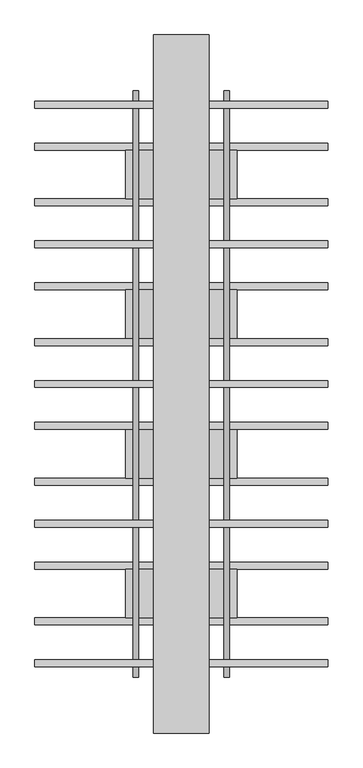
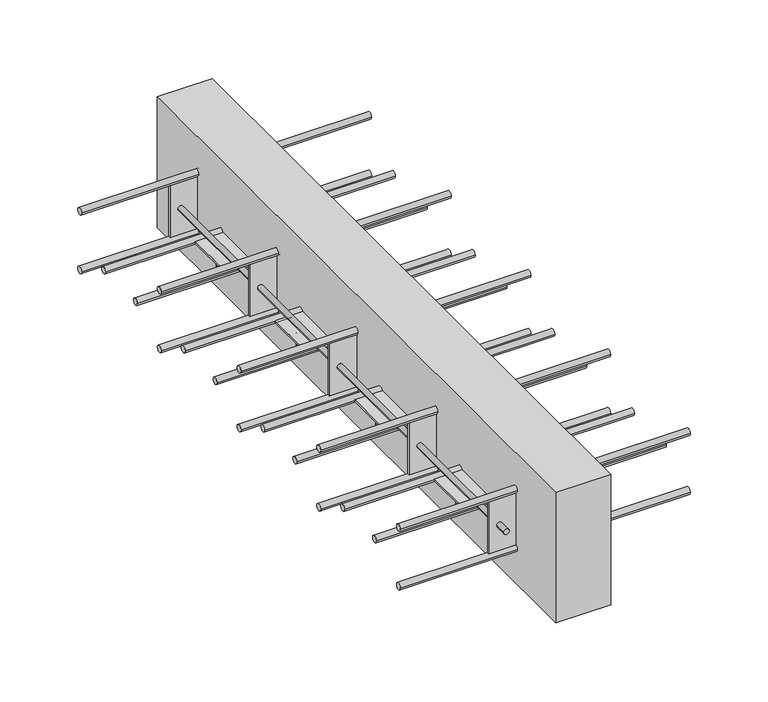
"""IFC4 building model written with IfcOpenShell, lengths in millimetres: proxy geometry, ACINOXplus_Typenreihe_Q : QD+ S4."""

from ifc_helpers import new_model, si_unit, point, frame, frame_2d, origin, place, context, project, spatial, polyline, circle_curve, trimmed, segment, composite_curve, outline, extrude, source, transform, mapped, element, save
from ifc_brep_helpers import plane_surface, cylinder_surface, advanced_brep


def generic_models_d223e0c7(model_context):
    return source(origin(), model_context, "Body", "SolidModel", [
        extrude(outline(composite_curve([segment(trimmed(circle_curve(frame_2d((-340.0, -109.0)), 5.0), [point((-345.0, -109.0))], [point((-335.0, -109.0))], False, "CARTESIAN"), True, "CONTINUOUS"), segment(trimmed(circle_curve(frame_2d((-340.0, -109.0)), 5.0), [point((-335.0, -109.0))], [point((-345.0, -109.0))], False, "CARTESIAN"), True, "CONTINUOUS")], self_intersect=False)), frame((-210.0, 0.0, 0.0), z_axis=(1.0, 0.0, 0.0), x_axis=(0.0, 1.0, 0.0)), (0.0, 0.0, 1.0), 420.0),
        extrude(outline(composite_curve([segment(trimmed(circle_curve(frame_2d((-260.0, -109.0)), 5.0), [point((-265.0, -109.0))], [point((-255.0, -109.0))], False, "CARTESIAN"), True, "CONTINUOUS"), segment(trimmed(circle_curve(frame_2d((-260.0, -109.0)), 5.0), [point((-255.0, -109.0))], [point((-265.0, -109.0))], False, "CARTESIAN"), True, "CONTINUOUS")], self_intersect=False)), frame((-210.0, 0.0, 0.0), z_axis=(1.0, 0.0, 0.0), x_axis=(0.0, 1.0, 0.0)), (0.0, 0.0, 1.0), 420.0),
        advanced_brep(
        [(-69.0, -300.0, -137.0), (-61.0, -300.0, -137.0), (61.0, -300.0, -137.0), (69.0, -300.0, -137.0), (-61.0, -300.0, -110.5), (-69.0, -300.0, -110.5), (69.0, -300.0, -110.5), (61.0, -300.0, -110.5), (80.0, -265.0, -107.5), (-80.0, -265.0, -107.5), (-80.0, -335.0, -107.5), (80.0, -335.0, -107.5), (80.0, -265.0, -110.5), (80.0, -335.0, -110.5), (-80.0, -335.0, -110.5), (-80.0, -265.0, -110.5)],
        [
            (0, 1, circle_curve(frame((-65.0, -300.0, -137.0), z_axis=(0.0, 0.0, -1.0), x_axis=(1.0, 0.0, 0.0)), 4.0)),
            (1, 0, circle_curve(frame((-65.0, -300.0, -137.0), z_axis=(0.0, 0.0, -1.0), x_axis=(1.0, 0.0, 0.0)), 4.0)),
            (2, 3, circle_curve(frame((65.0, -300.0, -137.0), z_axis=(0.0, 0.0, -1.0), x_axis=(1.0, 0.0, 0.0)), 4.0)),
            (3, 2, circle_curve(frame((65.0, -300.0, -137.0), z_axis=(0.0, 0.0, -1.0), x_axis=(1.0, 0.0, 0.0)), 4.0)),
            (1, 4),
            (4, 5, circle_curve(frame((-65.0, -300.0, -110.5), z_axis=(0.0, 0.0, -1.0), x_axis=(1.0, 0.0, 0.0)), 4.0)),
            (5, 0),
            (5, 4, circle_curve(frame((-65.0, -300.0, -110.5), z_axis=(0.0, 0.0, -1.0), x_axis=(1.0, 0.0, 0.0)), 4.0)),
            (3, 6),
            (6, 7, circle_curve(frame((65.0, -300.0, -110.5), z_axis=(0.0, 0.0, -1.0), x_axis=(1.0, 0.0, 0.0)), 4.0)),
            (7, 2),
            (7, 6, circle_curve(frame((65.0, -300.0, -110.5), z_axis=(0.0, 0.0, -1.0), x_axis=(1.0, 0.0, 0.0)), 4.0)),
            (8, 9),
            (9, 10),
            (10, 11),
            (11, 8),
            (12, 13),
            (13, 14),
            (14, 15),
            (15, 12),
            (8, 12),
            (15, 9),
            (14, 10),
            (13, 11),
        ],
        [
            plane_surface(frame((-61.0, -300.0, -137.0), z_axis=(0.0, 0.0, -1.0), x_axis=(0.0, -1.0, 0.0))),
            cylinder_surface(frame((-65.0, -300.0, -137.0), z_axis=(0.0, 0.0, 1.0), x_axis=(1.0, 0.0, 0.0)), 4.0),
            cylinder_surface(frame((65.0, -300.0, -109.0), z_axis=(0.0, 0.0, 1.0), x_axis=(1.0, 0.0, 0.0)), 4.0),
            plane_surface(frame((-80.0, -265.0, -107.5), z_axis=(0.0, 0.0, 1.0), x_axis=(-1.0, 0.0, 0.0))),
            plane_surface(frame((-80.0, -265.0, -110.5), z_axis=(0.0, 0.0, -1.0), x_axis=(1.0, 0.0, 0.0))),
            plane_surface(frame((80.0, -265.0, -107.5), z_axis=(0.0, 1.0, 0.0), x_axis=(0.0, 0.0, -1.0))),
            plane_surface(frame((-80.0, -265.0, -107.5), z_axis=(-1.0, 0.0, 0.0), x_axis=(0.0, 0.0, -1.0))),
            plane_surface(frame((-80.0, -335.0, -107.5), z_axis=(0.0, -1.0, 0.0), x_axis=(0.0, 0.0, -1.0))),
            plane_surface(frame((80.0, -335.0, -107.5), z_axis=(1.0, 0.0, 0.0), x_axis=(0.0, 0.0, -1.0))),
        ],
        [
            (0, [[1, 2]]),
            (0, [[3, 4]]),
            (1, [[-2, 5, 6, 7]]),
            (1, [[-1, -7, 8, -5]]),
            (2, [[-4, 9, 10, 11]]),
            (2, [[-3, -11, 12, -9]]),
            (3, [[13, 14, 15, 16]]),
            (4, [[17, 18, 19, 20], [-6, -8], [-10, -12]]),
            (5, [[-13, 21, -20, 22]]),
            (6, [[-14, -22, -19, 23]]),
            (7, [[-15, -23, -18, 24]]),
            (8, [[-16, -24, -17, -21]]),
        ],
    ),
        extrude(outline(composite_curve([segment(trimmed(circle_curve(frame_2d((260.0, -109.0)), 5.0), [point((255.0, -109.0))], [point((265.0, -109.0))], False, "CARTESIAN"), True, "CONTINUOUS"), segment(trimmed(circle_curve(frame_2d((260.0, -109.0)), 5.0), [point((265.0, -109.0))], [point((255.0, -109.0))], False, "CARTESIAN"), True, "CONTINUOUS")], self_intersect=False)), frame((-210.0, 0.0, 0.0), z_axis=(1.0, 0.0, 0.0), x_axis=(0.0, 1.0, 0.0)), (0.0, 0.0, 1.0), 420.0),
        extrude(outline(composite_curve([segment(trimmed(circle_curve(frame_2d((340.0, -109.0)), 5.0), [point((335.0, -109.0))], [point((345.0, -109.0))], False, "CARTESIAN"), True, "CONTINUOUS"), segment(trimmed(circle_curve(frame_2d((340.0, -109.0)), 5.0), [point((345.0, -109.0))], [point((335.0, -109.0))], False, "CARTESIAN"), True, "CONTINUOUS")], self_intersect=False)), frame((-210.0, 0.0, 0.0), z_axis=(1.0, 0.0, 0.0), x_axis=(0.0, 1.0, 0.0)), (0.0, 0.0, 1.0), 420.0),
        advanced_brep(
        [(-69.0, 300.0, -137.0), (-61.0, 300.0, -137.0), (61.0, 300.0, -137.0), (69.0, 300.0, -137.0), (-61.0, 300.0, -110.5), (-69.0, 300.0, -110.5), (69.0, 300.0, -110.5), (61.0, 300.0, -110.5), (80.0, 335.0, -107.5), (-80.0, 335.0, -107.5), (-80.0, 265.0, -107.5), (80.0, 265.0, -107.5), (80.0, 335.0, -110.5), (80.0, 265.0, -110.5), (-80.0, 265.0, -110.5), (-80.0, 335.0, -110.5)],
        [
            (0, 1, circle_curve(frame((-65.0, 300.0, -137.0), z_axis=(0.0, 0.0, -1.0), x_axis=(1.0, 0.0, 0.0)), 4.0)),
            (1, 0, circle_curve(frame((-65.0, 300.0, -137.0), z_axis=(0.0, 0.0, -1.0), x_axis=(1.0, 0.0, 0.0)), 4.0)),
            (2, 3, circle_curve(frame((65.0, 300.0, -137.0), z_axis=(0.0, 0.0, -1.0), x_axis=(1.0, 0.0, 0.0)), 4.0)),
            (3, 2, circle_curve(frame((65.0, 300.0, -137.0), z_axis=(0.0, 0.0, -1.0), x_axis=(1.0, 0.0, 0.0)), 4.0)),
            (1, 4),
            (4, 5, circle_curve(frame((-65.0, 300.0, -110.5), z_axis=(0.0, 0.0, -1.0), x_axis=(1.0, 0.0, 0.0)), 4.0)),
            (5, 0),
            (5, 4, circle_curve(frame((-65.0, 300.0, -110.5), z_axis=(0.0, 0.0, -1.0), x_axis=(1.0, 0.0, 0.0)), 4.0)),
            (3, 6),
            (6, 7, circle_curve(frame((65.0, 300.0, -110.5), z_axis=(0.0, 0.0, -1.0), x_axis=(1.0, 0.0, 0.0)), 4.0)),
            (7, 2),
            (7, 6, circle_curve(frame((65.0, 300.0, -110.5), z_axis=(0.0, 0.0, -1.0), x_axis=(1.0, 0.0, 0.0)), 4.0)),
            (8, 9),
            (9, 10),
            (10, 11),
            (11, 8),
            (12, 13),
            (13, 14),
            (14, 15),
            (15, 12),
            (8, 12),
            (15, 9),
            (14, 10),
            (13, 11),
        ],
        [
            plane_surface(frame((-61.0, 300.0, -137.0), z_axis=(0.0, 0.0, -1.0), x_axis=(0.0, -1.0, 0.0))),
            cylinder_surface(frame((-65.0, 300.0, -137.0), z_axis=(0.0, 0.0, 1.0), x_axis=(1.0, 0.0, 0.0)), 4.0),
            cylinder_surface(frame((65.0, 300.0, -109.0), z_axis=(0.0, 0.0, 1.0), x_axis=(1.0, 0.0, 0.0)), 4.0),
            plane_surface(frame((-80.0, 335.0, -107.5), z_axis=(0.0, 0.0, 1.0), x_axis=(-1.0, 0.0, 0.0))),
            plane_surface(frame((-80.0, 335.0, -110.5), z_axis=(0.0, 0.0, -1.0), x_axis=(1.0, 0.0, 0.0))),
            plane_surface(frame((80.0, 335.0, -107.5), z_axis=(0.0, 1.0, 0.0), x_axis=(0.0, 0.0, -1.0))),
            plane_surface(frame((-80.0, 335.0, -107.5), z_axis=(-1.0, 0.0, 0.0), x_axis=(0.0, 0.0, -1.0))),
            plane_surface(frame((-80.0, 265.0, -107.5), z_axis=(0.0, -1.0, 0.0), x_axis=(0.0, 0.0, -1.0))),
            plane_surface(frame((80.0, 265.0, -107.5), z_axis=(1.0, 0.0, 0.0), x_axis=(0.0, 0.0, -1.0))),
        ],
        [
            (0, [[1, 2]]),
            (0, [[3, 4]]),
            (1, [[-2, 5, 6, 7]]),
            (1, [[-1, -7, 8, -5]]),
            (2, [[-4, 9, 10, 11]]),
            (2, [[-3, -11, 12, -9]]),
            (3, [[13, 14, 15, 16]]),
            (4, [[17, 18, 19, 20], [-6, -8], [-10, -12]]),
            (5, [[-13, 21, -20, 22]]),
            (6, [[-14, -22, -19, 23]]),
            (7, [[-15, -23, -18, 24]]),
            (8, [[-16, -24, -17, -21]]),
        ],
    ),
        extrude(outline(composite_curve([segment(trimmed(circle_curve(frame_2d((-140.0, -109.0)), 5.0), [point((-145.0, -109.0))], [point((-135.0, -109.0))], False, "CARTESIAN"), True, "CONTINUOUS"), segment(trimmed(circle_curve(frame_2d((-140.0, -109.0)), 5.0), [point((-135.0, -109.0))], [point((-145.0, -109.0))], False, "CARTESIAN"), True, "CONTINUOUS")], self_intersect=False)), frame((-210.0, 0.0, 0.0), z_axis=(1.0, 0.0, 0.0), x_axis=(0.0, 1.0, 0.0)), (0.0, 0.0, 1.0), 420.0),
        extrude(outline(composite_curve([segment(trimmed(circle_curve(frame_2d((-60.0, -109.0)), 5.0), [point((-65.0, -109.0))], [point((-55.0, -109.0))], False, "CARTESIAN"), True, "CONTINUOUS"), segment(trimmed(circle_curve(frame_2d((-60.0, -109.0)), 5.0), [point((-55.0, -109.0))], [point((-65.0, -109.0))], False, "CARTESIAN"), True, "CONTINUOUS")], self_intersect=False)), frame((-210.0, 0.0, 0.0), z_axis=(1.0, 0.0, 0.0), x_axis=(0.0, 1.0, 0.0)), (0.0, 0.0, 1.0), 420.0),
        advanced_brep(
        [(-69.0, -100.0, -137.0), (-61.0, -100.0, -137.0), (61.0, -100.0, -137.0), (69.0, -100.0, -137.0), (-61.0, -100.0, -110.5), (-69.0, -100.0, -110.5), (69.0, -100.0, -110.5), (61.0, -100.0, -110.5), (80.0, -65.0, -107.5), (-80.0, -65.0, -107.5), (-80.0, -135.0, -107.5), (80.0, -135.0, -107.5), (80.0, -65.0, -110.5), (80.0, -135.0, -110.5), (-80.0, -135.0, -110.5), (-80.0, -65.0, -110.5)],
        [
            (0, 1, circle_curve(frame((-65.0, -100.0, -137.0), z_axis=(0.0, 0.0, -1.0), x_axis=(1.0, 0.0, 0.0)), 4.0)),
            (1, 0, circle_curve(frame((-65.0, -100.0, -137.0), z_axis=(0.0, 0.0, -1.0), x_axis=(1.0, 0.0, 0.0)), 4.0)),
            (2, 3, circle_curve(frame((65.0, -100.0, -137.0), z_axis=(0.0, 0.0, -1.0), x_axis=(1.0, 0.0, 0.0)), 4.0)),
            (3, 2, circle_curve(frame((65.0, -100.0, -137.0), z_axis=(0.0, 0.0, -1.0), x_axis=(1.0, 0.0, 0.0)), 4.0)),
            (1, 4),
            (4, 5, circle_curve(frame((-65.0, -100.0, -110.5), z_axis=(0.0, 0.0, -1.0), x_axis=(1.0, 0.0, 0.0)), 4.0)),
            (5, 0),
            (5, 4, circle_curve(frame((-65.0, -100.0, -110.5), z_axis=(0.0, 0.0, -1.0), x_axis=(1.0, 0.0, 0.0)), 4.0)),
            (3, 6),
            (6, 7, circle_curve(frame((65.0, -100.0, -110.5), z_axis=(0.0, 0.0, -1.0), x_axis=(1.0, 0.0, 0.0)), 4.0)),
            (7, 2),
            (7, 6, circle_curve(frame((65.0, -100.0, -110.5), z_axis=(0.0, 0.0, -1.0), x_axis=(1.0, 0.0, 0.0)), 4.0)),
            (8, 9),
            (9, 10),
            (10, 11),
            (11, 8),
            (12, 13),
            (13, 14),
            (14, 15),
            (15, 12),
            (8, 12),
            (15, 9),
            (14, 10),
            (13, 11),
        ],
        [
            plane_surface(frame((-61.0, -100.0, -137.0), z_axis=(0.0, 0.0, -1.0), x_axis=(0.0, -1.0, 0.0))),
            cylinder_surface(frame((-65.0, -100.0, -137.0), z_axis=(0.0, 0.0, 1.0), x_axis=(1.0, 0.0, 0.0)), 4.0),
            cylinder_surface(frame((65.0, -100.0, -109.0), z_axis=(0.0, 0.0, 1.0), x_axis=(1.0, 0.0, 0.0)), 4.0),
            plane_surface(frame((-80.0, -65.0, -107.5), z_axis=(0.0, 0.0, 1.0), x_axis=(-1.0, 0.0, 0.0))),
            plane_surface(frame((-80.0, -65.0, -110.5), z_axis=(0.0, 0.0, -1.0), x_axis=(1.0, 0.0, 0.0))),
            plane_surface(frame((80.0, -65.0, -107.5), z_axis=(0.0, 1.0, 0.0), x_axis=(0.0, 0.0, -1.0))),
            plane_surface(frame((-80.0, -65.0, -107.5), z_axis=(-1.0, 0.0, 0.0), x_axis=(0.0, 0.0, -1.0))),
            plane_surface(frame((-80.0, -135.0, -107.5), z_axis=(0.0, -1.0, 0.0), x_axis=(0.0, 0.0, -1.0))),
            plane_surface(frame((80.0, -135.0, -107.5), z_axis=(1.0, 0.0, 0.0), x_axis=(0.0, 0.0, -1.0))),
        ],
        [
            (0, [[1, 2]]),
            (0, [[3, 4]]),
            (1, [[-2, 5, 6, 7]]),
            (1, [[-1, -7, 8, -5]]),
            (2, [[-4, 9, 10, 11]]),
            (2, [[-3, -11, 12, -9]]),
            (3, [[13, 14, 15, 16]]),
            (4, [[17, 18, 19, 20], [-6, -8], [-10, -12]]),
            (5, [[-13, 21, -20, 22]]),
            (6, [[-14, -22, -19, 23]]),
            (7, [[-15, -23, -18, 24]]),
            (8, [[-16, -24, -17, -21]]),
        ],
    ),
        extrude(outline(composite_curve([segment(trimmed(circle_curve(frame_2d((60.0, -109.0)), 5.0), [point((55.0, -109.0))], [point((65.0, -109.0))], False, "CARTESIAN"), True, "CONTINUOUS"), segment(trimmed(circle_curve(frame_2d((60.0, -109.0)), 5.0), [point((65.0, -109.0))], [point((55.0, -109.0))], False, "CARTESIAN"), True, "CONTINUOUS")], self_intersect=False)), frame((-210.0, 0.0, 0.0), z_axis=(1.0, 0.0, 0.0), x_axis=(0.0, 1.0, 0.0)), (0.0, 0.0, 1.0), 420.0),
        extrude(outline(composite_curve([segment(trimmed(circle_curve(frame_2d((140.0, -109.0)), 5.0), [point((135.0, -109.0))], [point((145.0, -109.0))], False, "CARTESIAN"), True, "CONTINUOUS"), segment(trimmed(circle_curve(frame_2d((140.0, -109.0)), 5.0), [point((145.0, -109.0))], [point((135.0, -109.0))], False, "CARTESIAN"), True, "CONTINUOUS")], self_intersect=False)), frame((-210.0, 0.0, 0.0), z_axis=(1.0, 0.0, 0.0), x_axis=(0.0, 1.0, 0.0)), (0.0, 0.0, 1.0), 420.0),
        advanced_brep(
        [(-69.0, 100.0, -137.0), (-61.0, 100.0, -137.0), (61.0, 100.0, -137.0), (69.0, 100.0, -137.0), (-61.0, 100.0, -110.5), (-69.0, 100.0, -110.5), (69.0, 100.0, -110.5), (61.0, 100.0, -110.5), (80.0, 135.0, -107.5), (-80.0, 135.0, -107.5), (-80.0, 65.0, -107.5), (80.0, 65.0, -107.5), (80.0, 135.0, -110.5), (80.0, 65.0, -110.5), (-80.0, 65.0, -110.5), (-80.0, 135.0, -110.5)],
        [
            (0, 1, circle_curve(frame((-65.0, 100.0, -137.0), z_axis=(0.0, 0.0, -1.0), x_axis=(1.0, 0.0, 0.0)), 4.0)),
            (1, 0, circle_curve(frame((-65.0, 100.0, -137.0), z_axis=(0.0, 0.0, -1.0), x_axis=(1.0, 0.0, 0.0)), 4.0)),
            (2, 3, circle_curve(frame((65.0, 100.0, -137.0), z_axis=(0.0, 0.0, -1.0), x_axis=(1.0, 0.0, 0.0)), 4.0)),
            (3, 2, circle_curve(frame((65.0, 100.0, -137.0), z_axis=(0.0, 0.0, -1.0), x_axis=(1.0, 0.0, 0.0)), 4.0)),
            (1, 4),
            (4, 5, circle_curve(frame((-65.0, 100.0, -110.5), z_axis=(0.0, 0.0, -1.0), x_axis=(1.0, 0.0, 0.0)), 4.0)),
            (5, 0),
            (5, 4, circle_curve(frame((-65.0, 100.0, -110.5), z_axis=(0.0, 0.0, -1.0), x_axis=(1.0, 0.0, 0.0)), 4.0)),
            (3, 6),
            (6, 7, circle_curve(frame((65.0, 100.0, -110.5), z_axis=(0.0, 0.0, -1.0), x_axis=(1.0, 0.0, 0.0)), 4.0)),
            (7, 2),
            (7, 6, circle_curve(frame((65.0, 100.0, -110.5), z_axis=(0.0, 0.0, -1.0), x_axis=(1.0, 0.0, 0.0)), 4.0)),
            (8, 9),
            (9, 10),
            (10, 11),
            (11, 8),
            (12, 13),
            (13, 14),
            (14, 15),
            (15, 12),
            (8, 12),
            (15, 9),
            (14, 10),
            (13, 11),
        ],
        [
            plane_surface(frame((-61.0, 100.0, -137.0), z_axis=(0.0, 0.0, -1.0), x_axis=(0.0, -1.0, 0.0))),
            cylinder_surface(frame((-65.0, 100.0, -137.0), z_axis=(0.0, 0.0, 1.0), x_axis=(1.0, 0.0, 0.0)), 4.0),
            cylinder_surface(frame((65.0, 100.0, -109.0), z_axis=(0.0, 0.0, 1.0), x_axis=(1.0, 0.0, 0.0)), 4.0),
            plane_surface(frame((-80.0, 135.0, -107.5), z_axis=(0.0, 0.0, 1.0), x_axis=(-1.0, 0.0, 0.0))),
            plane_surface(frame((-80.0, 135.0, -110.5), z_axis=(0.0, 0.0, -1.0), x_axis=(1.0, 0.0, 0.0))),
            plane_surface(frame((80.0, 135.0, -107.5), z_axis=(0.0, 1.0, 0.0), x_axis=(0.0, 0.0, -1.0))),
            plane_surface(frame((-80.0, 135.0, -107.5), z_axis=(-1.0, 0.0, 0.0), x_axis=(0.0, 0.0, -1.0))),
            plane_surface(frame((-80.0, 65.0, -107.5), z_axis=(0.0, -1.0, 0.0), x_axis=(0.0, 0.0, -1.0))),
            plane_surface(frame((80.0, 65.0, -107.5), z_axis=(1.0, 0.0, 0.0), x_axis=(0.0, 0.0, -1.0))),
        ],
        [
            (0, [[1, 2]]),
            (0, [[3, 4]]),
            (1, [[-2, 5, 6, 7]]),
            (1, [[-1, -7, 8, -5]]),
            (2, [[-4, 9, 10, 11]]),
            (2, [[-3, -11, 12, -9]]),
            (3, [[13, 14, 15, 16]]),
            (4, [[17, 18, 19, 20], [-6, -8], [-10, -12]]),
            (5, [[-13, 21, -20, 22]]),
            (6, [[-14, -22, -19, 23]]),
            (7, [[-15, -23, -18, 24]]),
            (8, [[-16, -24, -17, -21]]),
        ],
    ),
        extrude(outline(polyline([(40.0, 500.0), (40.0, -500.0), (-40.0, -500.0), (-40.0, 500.0), (40.0, 500.0)])), frame((0.0, 0.0, -200.0), z_axis=(0.0, 0.0, 1.0), x_axis=(1.0, 0.0, 0.0)), (0.0, 0.0, 1.0), 200.0),
        extrude(outline(polyline([(80.0, -198.5), (80.0, -201.5), (-80.0, -201.5), (-80.0, -198.5), (80.0, -198.5)])), frame((0.0, 0.0, -140.0), z_axis=(0.0, 0.0, 1.0), x_axis=(1.0, 0.0, 0.0)), (0.0, 0.0, 1.0), 80.0),
        extrude(outline(polyline([(80.0, 1.5), (80.0, -1.5), (-80.0, -1.5), (-80.0, 1.5), (80.0, 1.5)])), frame((0.0, 0.0, -140.0), z_axis=(0.0, 0.0, 1.0), x_axis=(1.0, 0.0, 0.0)), (0.0, 0.0, 1.0), 80.0),
        extrude(outline(polyline([(80.0, 201.5), (80.0, 198.5), (-80.0, 198.5), (-80.0, 201.5), (80.0, 201.5)])), frame((0.0, 0.0, -140.0), z_axis=(0.0, 0.0, 1.0), x_axis=(1.0, 0.0, 0.0)), (0.0, 0.0, 1.0), 80.0),
        extrude(outline(polyline([(80.0, -398.5), (80.0, -401.5), (-80.0, -401.5), (-80.0, -398.5), (80.0, -398.5)])), frame((0.0, 0.0, -140.0), z_axis=(0.0, 0.0, 1.0), x_axis=(1.0, 0.0, 0.0)), (0.0, 0.0, 1.0), 80.0),
        extrude(outline(polyline([(80.0, 401.5), (80.0, 398.5), (-80.0, 398.5), (-80.0, 401.5), (80.0, 401.5)])), frame((0.0, 0.0, -140.0), z_axis=(0.0, 0.0, 1.0), x_axis=(1.0, 0.0, 0.0)), (0.0, 0.0, 1.0), 80.0),
        extrude(outline(composite_curve([segment(trimmed(circle_curve(frame_2d((-100.0, -65.0)), 4.0), [point((-100.0, -69.0))], [point((-100.0, -61.0))], False, "CARTESIAN"), True, "CONTINUOUS"), segment(trimmed(circle_curve(frame_2d((-100.0, -65.0)), 4.0), [point((-100.0, -61.0))], [point((-100.0, -69.0))], False, "CARTESIAN"), True, "CONTINUOUS")], self_intersect=False)), frame((0.0, -398.5, 0.0), z_axis=(0.0, 1.0, 0.0), x_axis=(0.0, 0.0, 1.0)), (0.0, 0.0, 1.0), 597.0),
        extrude(outline(composite_curve([segment(trimmed(circle_curve(frame_2d((-100.0, -65.0)), 4.0), [point((-100.0, -69.0))], [point((-100.0, -61.0))], False, "CARTESIAN"), True, "CONTINUOUS"), segment(trimmed(circle_curve(frame_2d((-100.0, -65.0)), 4.0), [point((-100.0, -61.0))], [point((-100.0, -69.0))], False, "CARTESIAN"), True, "CONTINUOUS")], self_intersect=False)), frame((0.0, 401.5, 0.0), z_axis=(0.0, 1.0, 0.0), x_axis=(0.0, 0.0, 1.0)), (0.0, 0.0, 1.0), 18.5),
        extrude(outline(composite_curve([segment(trimmed(circle_curve(frame_2d((-100.0, -65.0)), 4.0), [point((-100.0, -61.0))], [point((-100.0, -69.0))], False, "CARTESIAN"), True, "CONTINUOUS"), segment(trimmed(circle_curve(frame_2d((-100.0, -65.0)), 4.0), [point((-100.0, -69.0))], [point((-100.0, -61.0))], False, "CARTESIAN"), True, "CONTINUOUS")], self_intersect=False)), frame((0.0, -420.0, 0.0), z_axis=(0.0, 1.0, 0.0), x_axis=(0.0, 0.0, 1.0)), (0.0, 0.0, 1.0), 18.5),
        extrude(outline(composite_curve([segment(trimmed(circle_curve(frame_2d((-100.0, -65.0)), 4.0), [point((-100.0, -69.0))], [point((-100.0, -61.0))], False, "CARTESIAN"), True, "CONTINUOUS"), segment(trimmed(circle_curve(frame_2d((-100.0, -65.0)), 4.0), [point((-100.0, -61.0))], [point((-100.0, -69.0))], False, "CARTESIAN"), True, "CONTINUOUS")], self_intersect=False)), frame((0.0, 201.5, 0.0), z_axis=(0.0, 1.0, 0.0), x_axis=(0.0, 0.0, 1.0)), (0.0, 0.0, 1.0), 197.0),
        extrude(outline(composite_curve([segment(trimmed(circle_curve(frame_2d((-100.0, 65.0)), 4.0), [point((-100.0, 61.0))], [point((-100.0, 69.0))], False, "CARTESIAN"), True, "CONTINUOUS"), segment(trimmed(circle_curve(frame_2d((-100.0, 65.0)), 4.0), [point((-100.0, 69.0))], [point((-100.0, 61.0))], False, "CARTESIAN"), True, "CONTINUOUS")], self_intersect=False)), frame((0.0, -398.5, 0.0), z_axis=(0.0, 1.0, 0.0), x_axis=(0.0, 0.0, 1.0)), (0.0, 0.0, 1.0), 597.0),
        extrude(outline(composite_curve([segment(trimmed(circle_curve(frame_2d((-100.0, 65.0)), 4.0), [point((-100.0, 61.0))], [point((-100.0, 69.0))], False, "CARTESIAN"), True, "CONTINUOUS"), segment(trimmed(circle_curve(frame_2d((-100.0, 65.0)), 4.0), [point((-100.0, 69.0))], [point((-100.0, 61.0))], False, "CARTESIAN"), True, "CONTINUOUS")], self_intersect=False)), frame((0.0, 401.5, 0.0), z_axis=(0.0, 1.0, 0.0), x_axis=(0.0, 0.0, 1.0)), (0.0, 0.0, 1.0), 18.5),
        extrude(outline(composite_curve([segment(trimmed(circle_curve(frame_2d((-100.0, 65.0)), 4.0), [point((-100.0, 69.0))], [point((-100.0, 61.0))], False, "CARTESIAN"), True, "CONTINUOUS"), segment(trimmed(circle_curve(frame_2d((-100.0, 65.0)), 4.0), [point((-100.0, 61.0))], [point((-100.0, 69.0))], False, "CARTESIAN"), True, "CONTINUOUS")], self_intersect=False)), frame((0.0, -420.0, 0.0), z_axis=(0.0, 1.0, 0.0), x_axis=(0.0, 0.0, 1.0)), (0.0, 0.0, 1.0), 18.5),
        extrude(outline(composite_curve([segment(trimmed(circle_curve(frame_2d((-100.0, 65.0)), 4.0), [point((-100.0, 61.0))], [point((-100.0, 69.0))], False, "CARTESIAN"), True, "CONTINUOUS"), segment(trimmed(circle_curve(frame_2d((-100.0, 65.0)), 4.0), [point((-100.0, 69.0))], [point((-100.0, 61.0))], False, "CARTESIAN"), True, "CONTINUOUS")], self_intersect=False)), frame((0.0, 201.5, 0.0), z_axis=(0.0, 1.0, 0.0), x_axis=(0.0, 0.0, 1.0)), (0.0, 0.0, 1.0), 197.0),
        extrude(outline(composite_curve([segment(trimmed(circle_curve(frame_2d((0.0, -145.0)), 5.0), [point((-5.0, -145.0))], [point((5.0, -145.0))], False, "CARTESIAN"), True, "CONTINUOUS"), segment(trimmed(circle_curve(frame_2d((0.0, -145.0)), 5.0), [point((5.0, -145.0))], [point((-5.0, -145.0))], False, "CARTESIAN"), True, "CONTINUOUS")], self_intersect=False)), frame((-210.0, 0.0, 0.0), z_axis=(1.0, 0.0, 0.0), x_axis=(0.0, 1.0, 0.0)), (0.0, 0.0, 1.0), 420.0),
        extrude(outline(composite_curve([segment(trimmed(circle_curve(frame_2d((200.0, -145.0)), 5.0), [point((195.0, -145.0))], [point((205.0, -145.0))], False, "CARTESIAN"), True, "CONTINUOUS"), segment(trimmed(circle_curve(frame_2d((200.0, -145.0)), 5.0), [point((205.0, -145.0))], [point((195.0, -145.0))], False, "CARTESIAN"), True, "CONTINUOUS")], self_intersect=False)), frame((-210.0, 0.0, 0.0), z_axis=(1.0, 0.0, 0.0), x_axis=(0.0, 1.0, 0.0)), (0.0, 0.0, 1.0), 420.0),
        extrude(outline(composite_curve([segment(trimmed(circle_curve(frame_2d((400.0, -145.0)), 5.0), [point((395.0, -145.0))], [point((405.0, -145.0))], False, "CARTESIAN"), True, "CONTINUOUS"), segment(trimmed(circle_curve(frame_2d((400.0, -145.0)), 5.0), [point((405.0, -145.0))], [point((395.0, -145.0))], False, "CARTESIAN"), True, "CONTINUOUS")], self_intersect=False)), frame((-210.0, 0.0, 0.0), z_axis=(1.0, 0.0, 0.0), x_axis=(0.0, 1.0, 0.0)), (0.0, 0.0, 1.0), 420.0),
        extrude(outline(composite_curve([segment(trimmed(circle_curve(frame_2d((-200.0, -145.0)), 5.0), [point((-205.0, -145.0))], [point((-195.0, -145.0))], False, "CARTESIAN"), True, "CONTINUOUS"), segment(trimmed(circle_curve(frame_2d((-200.0, -145.0)), 5.0), [point((-195.0, -145.0))], [point((-205.0, -145.0))], False, "CARTESIAN"), True, "CONTINUOUS")], self_intersect=False)), frame((-210.0, 0.0, 0.0), z_axis=(1.0, 0.0, 0.0), x_axis=(0.0, 1.0, 0.0)), (0.0, 0.0, 1.0), 420.0),
        extrude(outline(composite_curve([segment(trimmed(circle_curve(frame_2d((-400.0, -145.0)), 5.0), [point((-405.0, -145.0))], [point((-395.0, -145.0))], False, "CARTESIAN"), True, "CONTINUOUS"), segment(trimmed(circle_curve(frame_2d((-400.0, -145.0)), 5.0), [point((-395.0, -145.0))], [point((-405.0, -145.0))], False, "CARTESIAN"), True, "CONTINUOUS")], self_intersect=False)), frame((-210.0, 0.0, 0.0), z_axis=(1.0, 0.0, 0.0), x_axis=(0.0, 1.0, 0.0)), (0.0, 0.0, 1.0), 420.0),
        extrude(outline(composite_curve([segment(trimmed(circle_curve(frame_2d((0.0, -55.0)), 5.0), [point((-5.0, -55.0))], [point((5.0, -55.0))], False, "CARTESIAN"), True, "CONTINUOUS"), segment(trimmed(circle_curve(frame_2d((0.0, -55.0)), 5.0), [point((5.0, -55.0))], [point((-5.0, -55.0))], False, "CARTESIAN"), True, "CONTINUOUS")], self_intersect=False)), frame((-210.0, 0.0, 0.0), z_axis=(1.0, 0.0, 0.0), x_axis=(0.0, 1.0, 0.0)), (0.0, 0.0, 1.0), 420.0),
        extrude(outline(composite_curve([segment(trimmed(circle_curve(frame_2d((200.0, -55.0)), 5.0), [point((195.0, -55.0))], [point((205.0, -55.0))], False, "CARTESIAN"), True, "CONTINUOUS"), segment(trimmed(circle_curve(frame_2d((200.0, -55.0)), 5.0), [point((205.0, -55.0))], [point((195.0, -55.0))], False, "CARTESIAN"), True, "CONTINUOUS")], self_intersect=False)), frame((-210.0, 0.0, 0.0), z_axis=(1.0, 0.0, 0.0), x_axis=(0.0, 1.0, 0.0)), (0.0, 0.0, 1.0), 420.0),
        extrude(outline(composite_curve([segment(trimmed(circle_curve(frame_2d((400.0, -55.0)), 5.0), [point((395.0, -55.0))], [point((405.0, -55.0))], False, "CARTESIAN"), True, "CONTINUOUS"), segment(trimmed(circle_curve(frame_2d((400.0, -55.0)), 5.0), [point((405.0, -55.0))], [point((395.0, -55.0))], False, "CARTESIAN"), True, "CONTINUOUS")], self_intersect=False)), frame((-210.0, 0.0, 0.0), z_axis=(1.0, 0.0, 0.0), x_axis=(0.0, 1.0, 0.0)), (0.0, 0.0, 1.0), 420.0),
        extrude(outline(composite_curve([segment(trimmed(circle_curve(frame_2d((-200.0, -55.0)), 5.0), [point((-205.0, -55.0))], [point((-195.0, -55.0))], False, "CARTESIAN"), True, "CONTINUOUS"), segment(trimmed(circle_curve(frame_2d((-200.0, -55.0)), 5.0), [point((-195.0, -55.0))], [point((-205.0, -55.0))], False, "CARTESIAN"), True, "CONTINUOUS")], self_intersect=False)), frame((-210.0, 0.0, 0.0), z_axis=(1.0, 0.0, 0.0), x_axis=(0.0, 1.0, 0.0)), (0.0, 0.0, 1.0), 420.0),
        extrude(outline(composite_curve([segment(trimmed(circle_curve(frame_2d((-400.0, -55.0)), 5.0), [point((-405.0, -55.0))], [point((-395.0, -55.0))], False, "CARTESIAN"), True, "CONTINUOUS"), segment(trimmed(circle_curve(frame_2d((-400.0, -55.0)), 5.0), [point((-395.0, -55.0))], [point((-405.0, -55.0))], False, "CARTESIAN"), True, "CONTINUOUS")], self_intersect=False)), frame((-210.0, 0.0, 0.0), z_axis=(1.0, 0.0, 0.0), x_axis=(0.0, 1.0, 0.0)), (0.0, 0.0, 1.0), 420.0),
    ])


if __name__ == "__main__":
    model = new_model("IFC4")
    model_context = context("Model", 3, world=origin())
    ifc_project = project(units=[si_unit("LENGTHUNIT", "METRE", prefix="MILLI")], contexts=[model_context])
    site = spatial("IfcSite", under=ifc_project)
    building = spatial("IfcBuilding", under=site)
    placement = place(None, origin())
    generic_models_shape = generic_models_d223e0c7(model_context)
    element("IfcBuildingElementProxy", 1, Name="ACINOXplus_Typenreihe_Q : QD+ S4", ObjectType="ACINOXplus_Typenreihe_Q : QD+ S4", at=placement, inside=building, context=model_context, shape_type="MappedRepresentation", body=[
        mapped(generic_models_shape, transform((0.0, 0.0, 0.0), x_axis=(1.0, 0.0, 0.0), y_axis=(0.0, 1.0, 0.0), z_axis=(0.0, 0.0, 1.0))),
    ])
    save(model, "model.ifc")
